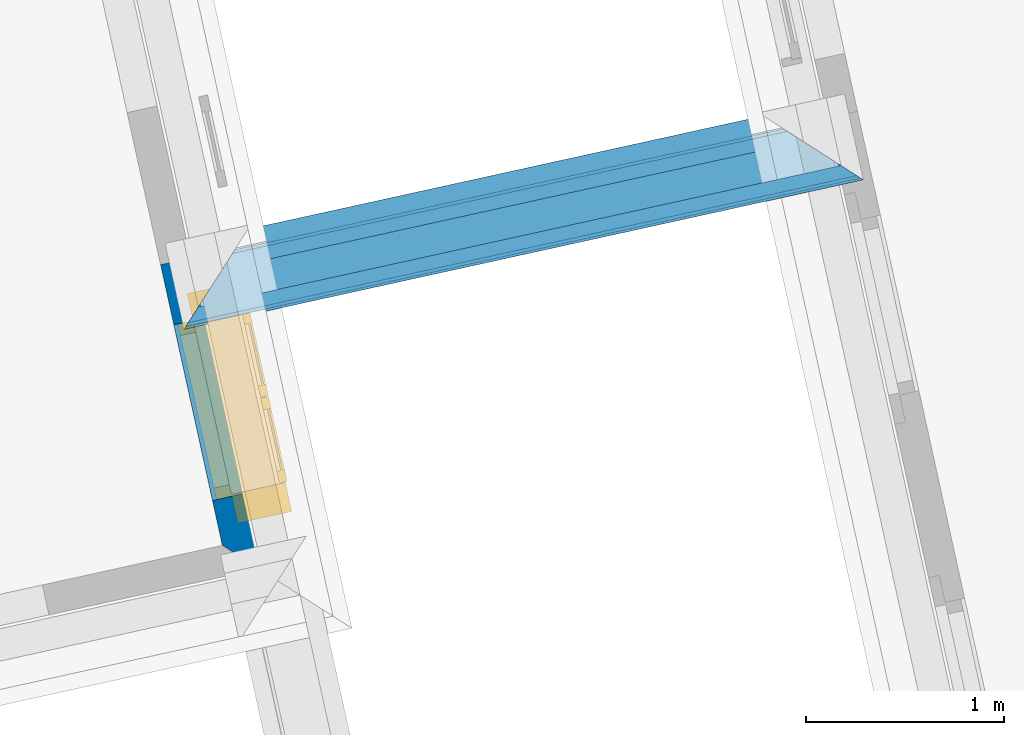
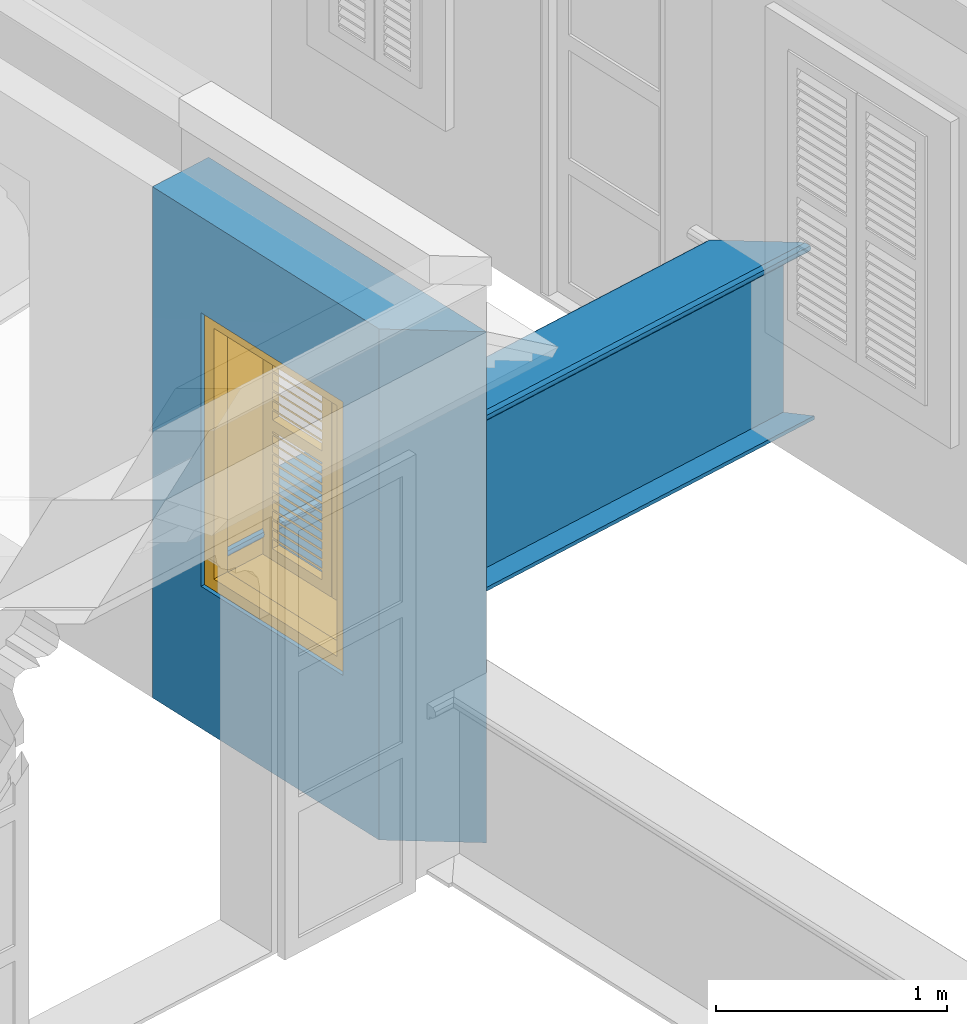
# One storey, part 10 of 17: 4 walls, 1 window, 1 opening.
"""IFC4 building model written with IfcOpenShell, lengths in metres."""

from ifc_helpers import new_model, si_unit, frame, origin, origin_with_axes, place, context, subcontext, project, spatial, polyline, outline, extrude, clip, halfspace, faceted_brep, source, transform, mapped, material, layer, layer_set, layer_usage, material_profile, profile_set, profile_usage, type_object, type_shapes, element, fill, save


model = new_model("IFC4")

# Units and contexts
model_context = context("Model", 3, world=origin_with_axes())
body_context = subcontext(model_context, "Body", "Model", "MODEL_VIEW")
ifc_project = project(units=[si_unit("PLANEANGLEUNIT", "RADIAN"), si_unit("MASSUNIT", "GRAM", prefix="KILO"), si_unit("FORCEUNIT", "NEWTON", prefix="KILO"), si_unit("LENGTHUNIT", "METRE"), si_unit("AREAUNIT", "SQUARE_METRE"), si_unit("VOLUMEUNIT", "CUBIC_METRE")], contexts=[model_context, model_context])

# Site, building, storey
site_placement = place(None, origin_with_axes())
site = spatial("IfcSite", under=ifc_project, at=site_placement, Name="Site plot-2", CompositionType="ELEMENT")
building_placement = place(None, origin_with_axes())
building = spatial("IfcBuilding", under=site, at=building_placement, Name="Building plot-2", CompositionType="ELEMENT")
storey_placement = place(None, frame((0.0, 0.0, 2.85), z_axis=(0.0, 0.0, 1.0), x_axis=(1.0, 0.0, 0.0)))
storey = spatial("IfcBuildingStorey", under=building, at=storey_placement, Name="plot-2 1", CompositionType="ELEMENT", Elevation=2.85)

# Wall, opening, window
ifc_material = material(Name="Masonry")
ifc_layer = layer(ifc_material, 0.33, ventilated=False)
ifc_layer_set = layer_set([ifc_layer], Name="exterior_0.08_0.25")
ifc_layer_usage = layer_usage(ifc_layer_set, "AXIS2", "POSITIVE", -0.25)
wall_type_1 = type_object("IfcWallType", Name="exterior_0.08_0.25", PredefinedType="SOLIDWALL", material=ifc_layer_set)
wall_1_placement = place(storey_placement, frame((12.445878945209, 11.0804082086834, 0.0), z_axis=(0.0, 0.0, 1.0), x_axis=(-0.214808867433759, 0.976656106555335, 0.0)))
wall_1 = element("IfcWall", 1, at=wall_1_placement, inside=storey, type_object=wall_type_1, material=ifc_layer_usage, Name="exterior", context=body_context, shape_type="SweptSolid", body=[
    extrude(outline(polyline([(0.0800000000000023, 0.0799999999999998), (-0.250000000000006, -0.249999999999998), (1.53414934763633, -0.25), (1.53414934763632, 0.0799999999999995), (0.0800000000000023, 0.0799999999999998)])), origin_with_axes(), (0.0, 0.0, 1.0), 2.7),
])
opening_placement = place(wall_1_placement, frame((0.312074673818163, 0.0, 0.75)))
opening = element("IfcOpeningElement", 2, at=opening_placement, cuts=wall_1, Name="My Opening", ObjectType="Opening", context=body_context, shape_type="SweptSolid", body=[
    extrude(outline(polyline([(0.0, -0.270000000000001), (0.909999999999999, -0.27), (0.91, 1.1), (1.66533453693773e-15, 1.1), (0.0, -0.270000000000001)])), origin_with_axes(), (0.0, 0.0, 1.0), 1.445),
])
window_type = type_object("IfcWindowType", Name="shuttered_shorter", PartitioningType="DOUBLE_PANEL_HORIZONTAL", PredefinedType="NOTDEFINED")
shared_shape = source(origin(), body_context, "Body", "Brep", [
    faceted_brep([(0.393, 0.0, 0.622), (0.074, 0.0, 0.622), (0.074, 0.0, 0.632), (0.393, 0.0, 0.632), (0.074, -0.04, 0.592), (0.393, -0.04, 0.592), (0.393, -0.04, 0.582), (0.074, -0.04, 0.582), (0.517, 0.0, 0.682), (0.836, 0.0, 0.682), (0.836, 0.0, 0.672), (0.517, 0.0, 0.672), (0.517, -0.04, 0.642), (0.836, -0.04, 0.642), (0.836, -0.04, 0.632), (0.517, -0.04, 0.632), (0.517, 0.0, 0.632), (0.836, 0.0, 0.632), (0.836, 0.0, 0.622), (0.517, 0.0, 0.622), (0.517, -0.04, 0.592), (0.836, -0.04, 0.592), (0.836, -0.04, 0.582), (0.517, -0.04, 0.582), (0.517, 0.0, 0.232), (0.836, 0.0, 0.232), (0.836, 0.0, 0.222), (0.517, 0.0, 0.222), (0.517, -0.04, 0.192), (0.836, -0.04, 0.192), (0.836, -0.04, 0.182), (0.517, -0.04, 0.182), (0.517, 0.0, 0.532), (0.836, 0.0, 0.532), (0.836, 0.0, 0.522), (0.517, 0.0, 0.522), (0.517, -0.04, 0.492), (0.836, -0.04, 0.492), (0.836, -0.04, 0.482), (0.517, -0.04, 0.482), (0.517, 0.0, 0.482), (0.836, 0.0, 0.482), (0.836, 0.0, 0.472), (0.517, 0.0, 0.472), (0.517, -0.04, 0.442), (0.836, -0.04, 0.442), (0.836, -0.04, 0.432), (0.517, -0.04, 0.432), (0.517, 0.0, 0.582), (0.836, 0.0, 0.582), (0.836, 0.0, 0.572), (0.517, 0.0, 0.572), (0.517, -0.04, 0.542), (0.836, -0.04, 0.542), (0.836, -0.04, 0.532), (0.517, -0.04, 0.532), (0.517, 0.0, 0.182), (0.836, 0.0, 0.182), (0.836, 0.0, 0.172), (0.517, 0.0, 0.172), (0.517, -0.04, 0.142), (0.836, -0.04, 0.142), (0.836, -0.04, 0.132), (0.517, -0.04, 0.132), (0.517, 0.0, 0.382), (0.836, 0.0, 0.382), (0.836, 0.0, 0.372), (0.517, 0.0, 0.372), (0.517, -0.04, 0.342), (0.836, -0.04, 0.342), (0.836, -0.04, 0.332), (0.517, -0.04, 0.332), (0.517, 0.0, 0.432), (0.836, 0.0, 0.432), (0.836, 0.0, 0.422), (0.517, 0.0, 0.422), (0.517, -0.04, 0.392), (0.836, -0.04, 0.392), (0.836, -0.04, 0.382), (0.517, -0.04, 0.382), (0.517, 0.0, 0.132), (0.836, 0.0, 0.132), (0.836, 0.0, 0.122), (0.517, 0.0, 0.122), (0.517, -0.04, 0.092), (0.836, -0.04, 0.092), (0.836, -0.04, 0.082), (0.517, -0.04, 0.082), (0.517, 0.0, 0.282), (0.836, 0.0, 0.282), (0.836, 0.0, 0.272), (0.517, 0.0, 0.272), (0.517, -0.04, 0.242), (0.836, -0.04, 0.242), (0.836, -0.04, 0.232), (0.517, -0.04, 0.232), (0.517, 0.0, 0.332), (0.836, 0.0, 0.332), (0.836, 0.0, 0.322), (0.517, 0.0, 0.322), (0.517, -0.04, 0.292), (0.836, -0.04, 0.292), (0.836, -0.04, 0.282), (0.517, -0.04, 0.282), (0.517, 0.0, 1.362667), (0.836, 0.0, 1.362667), (0.836, 0.0, 1.352667), (0.517, 0.0, 1.352667), (0.517, -0.04, 1.322667), (0.836, -0.04, 1.322667), (0.836, -0.04, 1.312667), (0.517, -0.04, 1.312667), (0.517, 0.0, 1.312667), (0.836, 0.0, 1.312667), (0.836, 0.0, 1.302667), (0.517, 0.0, 1.302667), (0.517, -0.04, 1.272667), (0.836, -0.04, 1.272667), (0.836, -0.04, 1.262667), (0.517, -0.04, 1.262667), (0.517, 0.0, 0.912667), (0.836, 0.0, 0.912667), (0.836, 0.0, 0.902667), (0.517, 0.0, 0.902667), (0.517, -0.04, 0.872667), (0.836, -0.04, 0.872667), (0.836, -0.04, 0.862667), (0.517, -0.04, 0.862667), (0.517, 0.0, 1.212667), (0.836, 0.0, 1.212667), (0.836, 0.0, 1.202667), (0.517, 0.0, 1.202667), (0.517, -0.04, 1.172667), (0.836, -0.04, 1.172667), (0.836, -0.04, 1.162667), (0.517, -0.04, 1.162667), (0.517, 0.0, 1.162667), (0.836, 0.0, 1.162667), (0.836, 0.0, 1.152667), (0.517, 0.0, 1.152667), (0.517, -0.04, 1.122667), (0.836, -0.04, 1.122667), (0.836, -0.04, 1.112667), (0.517, -0.04, 1.112667), (0.517, 0.0, 1.262667), (0.836, 0.0, 1.262667), (0.836, 0.0, 1.252667), (0.517, 0.0, 1.252667), (0.517, -0.04, 1.222667), (0.836, -0.04, 1.222667), (0.836, -0.04, 1.212667), (0.517, -0.04, 1.212667), (0.517, 0.0, 0.862667), (0.836, 0.0, 0.862667), (0.836, 0.0, 0.852667), (0.517, 0.0, 0.852667), (0.517, -0.04, 0.822667), (0.836, -0.04, 0.822667), (0.836, -0.04, 0.812667), (0.517, -0.04, 0.812667), (0.517, 0.0, 1.062667), (0.836, 0.0, 1.062667), (0.836, 0.0, 1.052667), (0.517, 0.0, 1.052667), (0.517, -0.04, 1.022667), (0.836, -0.04, 1.022667), (0.836, -0.04, 1.012667), (0.517, -0.04, 1.012667), (0.517, 0.0, 1.112667), (0.836, 0.0, 1.112667), (0.836, 0.0, 1.102667), (0.517, 0.0, 1.102667), (0.517, -0.04, 1.072667), (0.836, -0.04, 1.072667), (0.836, -0.04, 1.062667), (0.517, -0.04, 1.062667), (0.517, 0.0, 0.812667), (0.836, 0.0, 0.812667), (0.836, 0.0, 0.802667), (0.517, 0.0, 0.802667), (0.517, -0.04, 0.772667), (0.836, -0.04, 0.772667), (0.836, -0.04, 0.762667), (0.517, -0.04, 0.762667), (0.517, 0.0, 0.962667), (0.836, 0.0, 0.962667), (0.836, 0.0, 0.952667), (0.517, 0.0, 0.952667), (0.517, -0.04, 0.922667), (0.836, -0.04, 0.922667), (0.836, -0.04, 0.912667), (0.517, -0.04, 0.912667), (0.517, 0.0, 1.012667), (0.836, 0.0, 1.012667), (0.836, 0.0, 1.002667), (0.517, 0.0, 1.002667), (0.517, -0.04, 0.972667), (0.836, -0.04, 0.972667), (0.836, -0.04, 0.962667), (0.517, -0.04, 0.962667), (0.074, 0.0, 0.682), (0.393, 0.0, 0.682), (0.393, 0.0, 0.672), (0.074, 0.0, 0.672), (0.074, -0.04, 0.642), (0.393, -0.04, 0.642), (0.393, -0.04, 0.632), (0.074, -0.04, 0.632), (0.074, 0.0, 0.232), (0.393, 0.0, 0.232), (0.393, 0.0, 0.222), (0.074, 0.0, 0.222), (0.074, -0.04, 0.192), (0.393, -0.04, 0.192), (0.393, -0.04, 0.182), (0.074, -0.04, 0.182), (0.074, 0.0, 0.532), (0.393, 0.0, 0.532), (0.393, 0.0, 0.522), (0.074, 0.0, 0.522), (0.074, -0.04, 0.492), (0.393, -0.04, 0.492), (0.393, -0.04, 0.482), (0.074, -0.04, 0.482), (0.074, 0.0, 0.482), (0.393, 0.0, 0.482), (0.393, 0.0, 0.472), (0.074, 0.0, 0.472), (0.074, -0.04, 0.442), (0.393, -0.04, 0.442), (0.393, -0.04, 0.432), (0.074, -0.04, 0.432), (0.074, 0.0, 0.582), (0.393, 0.0, 0.582), (0.393, 0.0, 0.572), (0.074, 0.0, 0.572), (0.074, -0.04, 0.542), (0.393, -0.04, 0.542), (0.393, -0.04, 0.532), (0.074, -0.04, 0.532), (0.074, 0.0, 0.182), (0.393, 0.0, 0.182), (0.393, 0.0, 0.172), (0.074, 0.0, 0.172), (0.074, -0.04, 0.142), (0.393, -0.04, 0.142), (0.393, -0.04, 0.132), (0.074, -0.04, 0.132), (0.074, 0.0, 0.382), (0.393, 0.0, 0.382), (0.393, 0.0, 0.372), (0.074, 0.0, 0.372), (0.074, -0.04, 0.342), (0.393, -0.04, 0.342), (0.393, -0.04, 0.332), (0.074, -0.04, 0.332), (0.074, 0.0, 0.432), (0.393, 0.0, 0.432), (0.393, 0.0, 0.422), (0.074, 0.0, 0.422), (0.074, -0.04, 0.392), (0.393, -0.04, 0.392), (0.393, -0.04, 0.382), (0.074, -0.04, 0.382), (0.074, 0.0, 0.132), (0.393, 0.0, 0.132), (0.393, 0.0, 0.122), (0.074, 0.0, 0.122), (0.074, -0.04, 0.092), (0.393, -0.04, 0.092), (0.393, -0.04, 0.082), (0.074, -0.04, 0.082), (0.074, 0.0, 0.282), (0.393, 0.0, 0.282), (0.393, 0.0, 0.272), (0.074, 0.0, 0.272), (0.074, -0.04, 0.242), (0.393, -0.04, 0.242), (0.393, -0.04, 0.232), (0.074, -0.04, 0.232), (0.074, 0.0, 0.332), (0.393, 0.0, 0.332), (0.393, 0.0, 0.322), (0.074, 0.0, 0.322), (0.074, -0.04, 0.292), (0.393, -0.04, 0.292), (0.393, -0.04, 0.282), (0.074, -0.04, 0.282), (0.074, 0.0, 1.362667), (0.393, 0.0, 1.362667), (0.393, 0.0, 1.352667), (0.074, 0.0, 1.352667), (0.074, -0.04, 1.322667), (0.393, -0.04, 1.322667), (0.393, -0.04, 1.312667), (0.074, -0.04, 1.312667), (0.074, 0.0, 1.312667), (0.393, 0.0, 1.312667), (0.393, 0.0, 1.302667), (0.074, 0.0, 1.302667), (0.074, -0.04, 1.272667), (0.393, -0.04, 1.272667), (0.393, -0.04, 1.262667), (0.074, -0.04, 1.262667), (0.074, 0.0, 0.912667), (0.393, 0.0, 0.912667), (0.393, 0.0, 0.902667), (0.074, 0.0, 0.902667), (0.074, -0.04, 0.872667), (0.393, -0.04, 0.872667), (0.393, -0.04, 0.862667), (0.074, -0.04, 0.862667), (0.074, 0.0, 1.212667), (0.393, 0.0, 1.212667), (0.393, 0.0, 1.202667), (0.074, 0.0, 1.202667), (0.074, -0.04, 1.172667), (0.393, -0.04, 1.172667), (0.393, -0.04, 1.162667), (0.074, -0.04, 1.162667), (0.074, 0.0, 1.162667), (0.393, 0.0, 1.162667), (0.393, 0.0, 1.152667), (0.074, 0.0, 1.152667), (0.074, -0.04, 1.122667), (0.393, -0.04, 1.122667), (0.393, -0.04, 1.112667), (0.074, -0.04, 1.112667), (0.074, 0.0, 1.262667), (0.393, 0.0, 1.262667), (0.393, 0.0, 1.252667), (0.074, 0.0, 1.252667), (0.074, -0.04, 1.222667), (0.393, -0.04, 1.222667), (0.393, -0.04, 1.212667), (0.074, -0.04, 1.212667), (0.074, 0.0, 0.862667), (0.393, 0.0, 0.862667), (0.393, 0.0, 0.852667), (0.074, 0.0, 0.852667), (0.074, -0.04, 0.822667), (0.393, -0.04, 0.822667), (0.393, -0.04, 0.812667), (0.074, -0.04, 0.812667), (0.074, 0.0, 1.062667), (0.393, 0.0, 1.062667), (0.393, 0.0, 1.052667), (0.074, 0.0, 1.052667), (0.074, -0.04, 1.022667), (0.393, -0.04, 1.022667), (0.393, -0.04, 1.012667), (0.074, -0.04, 1.012667), (0.074, 0.0, 1.112667), (0.393, 0.0, 1.112667), (0.393, 0.0, 1.102667), (0.074, 0.0, 1.102667), (0.074, -0.04, 1.072667), (0.393, -0.04, 1.072667), (0.393, -0.04, 1.062667), (0.074, -0.04, 1.062667), (0.074, 0.0, 0.812667), (0.393, 0.0, 0.812667), (0.393, 0.0, 0.802667), (0.074, 0.0, 0.802667), (0.074, -0.04, 0.772667), (0.393, -0.04, 0.772667), (0.393, -0.04, 0.762667), (0.074, -0.04, 0.762667), (0.074, 0.0, 0.962667), (0.393, 0.0, 0.962667), (0.393, 0.0, 0.952667), (0.074, 0.0, 0.952667), (0.074, -0.04, 0.922667), (0.393, -0.04, 0.922667), (0.393, -0.04, 0.912667), (0.074, -0.04, 0.912667), (0.074, 0.0, 1.012667), (0.393, 0.0, 1.012667), (0.393, 0.0, 1.002667), (0.074, 0.0, 1.002667), (0.074, -0.04, 0.972667), (0.393, -0.04, 0.972667), (0.393, -0.04, 0.962667), (0.074, -0.04, 0.962667), (0.517, -0.04, 0.072), (0.457, -0.04, 0.012), (0.896, -0.04, 0.012), (0.836, -0.04, 0.072), (0.457, -0.04, 0.692667), (0.517, -0.04, 0.692667), (0.457, 0.0, 0.012), (0.896, 0.0, 0.012), (0.836, -0.04, 0.692667), (0.896, -0.04, 0.692667), (0.836, 0.0, 0.072), (0.517, 0.0, 0.072), (0.457, 0.0, 0.692667), (0.517, 0.0, 0.692667), (0.517, -0.04, 0.752666), (0.457, -0.04, 0.752666), (0.896, 0.0, 0.692667), (0.836, 0.0, 0.692667), (0.836, -0.04, 0.752666), (0.896, -0.04, 0.752666), (0.457, 0.0, 0.752666), (0.457, -0.04, 1.433333), (0.517, -0.04, 1.373333), (0.896, 0.0, 0.752666), (0.836, -0.04, 1.373333), (0.896, -0.04, 1.433333), (0.457, 0.0, 1.433333), (0.517, 0.0, 0.752666), (0.836, 0.0, 0.752666), (0.517, 0.0, 1.373333), (0.896, 0.0, 1.433333), (0.836, 0.0, 1.373333), (0.074, -0.04, 0.072), (0.014, -0.04, 0.012), (0.453, -0.04, 0.012), (0.393, -0.04, 0.072), (0.014, -0.04, 0.692667), (0.074, -0.04, 0.692667), (0.014, 0.0, 0.012), (0.453, 0.0, 0.012), (0.393, -0.04, 0.692667), (0.453, -0.04, 0.692667), (0.393, 0.0, 0.072), (0.074, 0.0, 0.072), (0.014, 0.0, 0.692667), (0.074, 0.0, 0.692667), (0.074, -0.04, 0.752666), (0.014, -0.04, 0.752666), (0.453, 0.0, 0.692667), (0.393, 0.0, 0.692667), (0.393, -0.04, 0.752666), (0.453, -0.04, 0.752666), (0.014, 0.0, 0.752666), (0.014, -0.04, 1.433333), (0.074, -0.04, 1.373333), (0.453, 0.0, 0.752666), (0.393, -0.04, 1.373333), (0.453, -0.04, 1.433333), (0.014, 0.0, 1.433333), (0.074, 0.0, 0.752666), (0.393, 0.0, 0.752666), (0.074, 0.0, 1.373333), (0.453, 0.0, 1.433333), (0.393, 0.0, 1.373333), (0.0, 0.33, 1.445), (0.91, 0.33, 1.445), (0.85, 0.33, 1.385), (0.06, 0.33, 1.385), (0.91, 0.25, 1.445), (0.0, 0.25, 1.445), (0.91, 0.25, 1.445), (0.85, 0.33, 0.06), (0.91, 0.33, 0.0), (0.85, 0.25, 1.385), (0.06, 0.25, 1.385), (0.0, 0.33, 0.0), (0.06, 0.33, 0.06), (0.0, 0.25, 0.0), (0.91, 0.25, 0.0), (0.85, 0.25, 0.06), (0.06, 0.25, 0.06), (1.05, 0.25, 1.585), (-0.14, 0.25, 1.585), (-0.14, -0.03, 1.585), (1.05, -0.03, 1.585), (0.9, -0.03, 1.435), (0.01, -0.03, 1.435), (0.01, 0.25, 1.435), (0.9, 0.25, 1.435), (0.9, 0.25, 0.01), (0.9, -0.03, 0.01), (1.05, -0.03, -0.14), (1.05, 0.25, -0.14), (0.01, -0.03, 0.01), (0.01, 0.25, 0.01), (-0.14, -0.03, -0.14), (-0.14, 0.25, -0.14)], [[[0, 1, 2, 3]], [[4, 5, 3, 2]], [[5, 6, 0, 3]], [[1, 0, 6, 7]], [[2, 1, 7, 4]], [[5, 4, 7, 6]], [[8, 9, 10, 11]], [[12, 13, 9, 8]], [[13, 14, 10, 9]], [[14, 15, 11, 10]], [[15, 12, 8, 11]], [[13, 12, 15, 14]], [[16, 17, 18, 19]], [[20, 21, 17, 16]], [[21, 22, 18, 17]], [[22, 23, 19, 18]], [[23, 20, 16, 19]], [[21, 20, 23, 22]], [[24, 25, 26, 27]], [[28, 29, 25, 24]], [[29, 30, 26, 25]], [[30, 31, 27, 26]], [[31, 28, 24, 27]], [[29, 28, 31, 30]], [[32, 33, 34, 35]], [[36, 37, 33, 32]], [[37, 38, 34, 33]], [[38, 39, 35, 34]], [[39, 36, 32, 35]], [[37, 36, 39, 38]], [[40, 41, 42, 43]], [[44, 45, 41, 40]], [[45, 46, 42, 41]], [[46, 47, 43, 42]], [[47, 44, 40, 43]], [[45, 44, 47, 46]], [[48, 49, 50, 51]], [[52, 53, 49, 48]], [[53, 54, 50, 49]], [[54, 55, 51, 50]], [[55, 52, 48, 51]], [[53, 52, 55, 54]], [[56, 57, 58, 59]], [[60, 61, 57, 56]], [[61, 62, 58, 57]], [[62, 63, 59, 58]], [[63, 60, 56, 59]], [[61, 60, 63, 62]], [[64, 65, 66, 67]], [[68, 69, 65, 64]], [[69, 70, 66, 65]], [[70, 71, 67, 66]], [[71, 68, 64, 67]], [[69, 68, 71, 70]], [[72, 73, 74, 75]], [[76, 77, 73, 72]], [[77, 78, 74, 73]], [[78, 79, 75, 74]], [[79, 76, 72, 75]], [[77, 76, 79, 78]], [[80, 81, 82, 83]], [[84, 85, 81, 80]], [[85, 86, 82, 81]], [[86, 87, 83, 82]], [[87, 84, 80, 83]], [[85, 84, 87, 86]], [[88, 89, 90, 91]], [[92, 93, 89, 88]], [[93, 94, 90, 89]], [[94, 95, 91, 90]], [[95, 92, 88, 91]], [[93, 92, 95, 94]], [[96, 97, 98, 99]], [[100, 101, 97, 96]], [[101, 102, 98, 97]], [[102, 103, 99, 98]], [[103, 100, 96, 99]], [[101, 100, 103, 102]], [[104, 105, 106, 107]], [[108, 109, 105, 104]], [[109, 110, 106, 105]], [[110, 111, 107, 106]], [[111, 108, 104, 107]], [[109, 108, 111, 110]], [[112, 113, 114, 115]], [[116, 117, 113, 112]], [[117, 118, 114, 113]], [[118, 119, 115, 114]], [[119, 116, 112, 115]], [[117, 116, 119, 118]], [[120, 121, 122, 123]], [[124, 125, 121, 120]], [[125, 126, 122, 121]], [[126, 127, 123, 122]], [[127, 124, 120, 123]], [[125, 124, 127, 126]], [[128, 129, 130, 131]], [[132, 133, 129, 128]], [[133, 134, 130, 129]], [[134, 135, 131, 130]], [[135, 132, 128, 131]], [[133, 132, 135, 134]], [[136, 137, 138, 139]], [[140, 141, 137, 136]], [[141, 142, 138, 137]], [[142, 143, 139, 138]], [[139, 143, 140, 136]], [[141, 140, 143, 142]], [[144, 145, 146, 147]], [[148, 149, 145, 144]], [[149, 150, 146, 145]], [[150, 151, 147, 146]], [[151, 148, 144, 147]], [[149, 148, 151, 150]], [[152, 153, 154, 155]], [[156, 157, 153, 152]], [[157, 158, 154, 153]], [[158, 159, 155, 154]], [[159, 156, 152, 155]], [[157, 156, 159, 158]], [[160, 161, 162, 163]], [[164, 165, 161, 160]], [[165, 166, 162, 161]], [[166, 167, 163, 162]], [[167, 164, 160, 163]], [[165, 164, 167, 166]], [[168, 169, 170, 171]], [[172, 173, 169, 168]], [[173, 174, 170, 169]], [[174, 175, 171, 170]], [[175, 172, 168, 171]], [[173, 172, 175, 174]], [[176, 177, 178, 179]], [[180, 181, 177, 176]], [[181, 182, 178, 177]], [[182, 183, 179, 178]], [[183, 180, 176, 179]], [[181, 180, 183, 182]], [[184, 185, 186, 187]], [[188, 189, 185, 184]], [[189, 190, 186, 185]], [[190, 191, 187, 186]], [[191, 188, 184, 187]], [[189, 188, 191, 190]], [[192, 193, 194, 195]], [[196, 197, 193, 192]], [[197, 198, 194, 193]], [[198, 199, 195, 194]], [[199, 196, 192, 195]], [[197, 196, 199, 198]], [[200, 201, 202, 203]], [[204, 205, 201, 200]], [[205, 206, 202, 201]], [[206, 207, 203, 202]], [[207, 204, 200, 203]], [[205, 204, 207, 206]], [[208, 209, 210, 211]], [[212, 213, 209, 208]], [[213, 214, 210, 209]], [[214, 215, 211, 210]], [[215, 212, 208, 211]], [[213, 212, 215, 214]], [[216, 217, 218, 219]], [[220, 221, 217, 216]], [[221, 222, 218, 217]], [[222, 223, 219, 218]], [[223, 220, 216, 219]], [[221, 220, 223, 222]], [[224, 225, 226, 227]], [[228, 229, 225, 224]], [[229, 230, 226, 225]], [[230, 231, 227, 226]], [[231, 228, 224, 227]], [[229, 228, 231, 230]], [[232, 233, 234, 235]], [[236, 237, 233, 232]], [[237, 238, 234, 233]], [[238, 239, 235, 234]], [[239, 236, 232, 235]], [[237, 236, 239, 238]], [[240, 241, 242, 243]], [[244, 245, 241, 240]], [[245, 246, 242, 241]], [[246, 247, 243, 242]], [[247, 244, 240, 243]], [[245, 244, 247, 246]], [[248, 249, 250, 251]], [[252, 253, 249, 248]], [[253, 254, 250, 249]], [[254, 255, 251, 250]], [[255, 252, 248, 251]], [[253, 252, 255, 254]], [[256, 257, 258, 259]], [[260, 261, 257, 256]], [[261, 262, 258, 257]], [[262, 263, 259, 258]], [[263, 260, 256, 259]], [[261, 260, 263, 262]], [[264, 265, 266, 267]], [[268, 269, 265, 264]], [[269, 270, 266, 265]], [[270, 271, 267, 266]], [[271, 268, 264, 267]], [[269, 268, 271, 270]], [[272, 273, 274, 275]], [[276, 277, 273, 272]], [[277, 278, 274, 273]], [[278, 279, 275, 274]], [[279, 276, 272, 275]], [[277, 276, 279, 278]], [[280, 281, 282, 283]], [[284, 285, 281, 280]], [[285, 286, 282, 281]], [[286, 287, 283, 282]], [[287, 284, 280, 283]], [[285, 284, 287, 286]], [[288, 289, 290, 291]], [[292, 293, 289, 288]], [[293, 294, 290, 289]], [[294, 295, 291, 290]], [[295, 292, 288, 291]], [[293, 292, 295, 294]], [[296, 297, 298, 299]], [[300, 301, 297, 296]], [[301, 302, 298, 297]], [[302, 303, 299, 298]], [[303, 300, 296, 299]], [[301, 300, 303, 302]], [[304, 305, 306, 307]], [[308, 309, 305, 304]], [[309, 310, 306, 305]], [[310, 311, 307, 306]], [[311, 308, 304, 307]], [[309, 308, 311, 310]], [[312, 313, 314, 315]], [[316, 317, 313, 312]], [[317, 318, 314, 313]], [[318, 319, 315, 314]], [[319, 316, 312, 315]], [[317, 316, 319, 318]], [[320, 321, 322, 323]], [[324, 325, 321, 320]], [[325, 326, 322, 321]], [[326, 327, 323, 322]], [[327, 324, 320, 323]], [[325, 324, 327, 326]], [[328, 329, 330, 331]], [[332, 333, 329, 328]], [[333, 334, 330, 329]], [[334, 335, 331, 330]], [[335, 332, 328, 331]], [[333, 332, 335, 334]], [[336, 337, 338, 339]], [[340, 341, 337, 336]], [[341, 342, 338, 337]], [[342, 343, 339, 338]], [[343, 340, 336, 339]], [[341, 340, 343, 342]], [[344, 345, 346, 347]], [[348, 349, 345, 344]], [[349, 350, 346, 345]], [[350, 351, 347, 346]], [[351, 348, 344, 347]], [[349, 348, 351, 350]], [[352, 353, 354, 355]], [[356, 357, 353, 352]], [[357, 358, 354, 353]], [[358, 359, 355, 354]], [[359, 356, 352, 355]], [[357, 356, 359, 358]], [[360, 361, 362, 363]], [[364, 365, 361, 360]], [[365, 366, 362, 361]], [[366, 367, 363, 362]], [[367, 364, 360, 363]], [[365, 364, 367, 366]], [[368, 369, 370, 371]], [[372, 373, 369, 368]], [[373, 374, 370, 369]], [[374, 375, 371, 370]], [[375, 372, 368, 371]], [[373, 372, 375, 374]], [[376, 377, 378, 379]], [[380, 381, 377, 376]], [[381, 382, 378, 377]], [[382, 383, 379, 378]], [[383, 380, 376, 379]], [[381, 380, 383, 382]], [[384, 385, 386, 387]], [[388, 385, 384, 389]], [[390, 391, 386, 385]], [[392, 387, 386, 393]], [[384, 387, 394, 395]], [[390, 385, 388, 396]], [[389, 384, 395, 397]], [[389, 398, 399, 388]], [[390, 395, 394, 391]], [[400, 393, 386, 391]], [[387, 392, 401, 394]], [[402, 392, 393, 403]], [[396, 388, 399, 404]], [[390, 396, 397, 395]], [[392, 389, 397, 401]], [[398, 389, 392, 402]], [[405, 399, 398, 406]], [[394, 401, 400, 391]], [[407, 403, 393, 400]], [[408, 402, 403, 409]], [[404, 399, 405, 410]], [[411, 397, 396, 404]], [[397, 411, 412, 401]], [[398, 402, 412, 411]], [[406, 398, 411, 413]], [[405, 406, 408, 409]], [[401, 412, 407, 400]], [[414, 409, 403, 407]], [[402, 408, 415, 412]], [[405, 409, 414, 410]], [[404, 410, 413, 411]], [[408, 406, 413, 415]], [[412, 415, 414, 407]], [[413, 410, 414, 415]], [[416, 417, 418, 419]], [[420, 417, 416, 421]], [[422, 423, 418, 417]], [[424, 419, 418, 425]], [[416, 419, 426, 427]], [[422, 417, 420, 428]], [[421, 416, 427, 429]], [[421, 430, 431, 420]], [[422, 427, 426, 423]], [[432, 425, 418, 423]], [[419, 424, 433, 426]], [[434, 424, 425, 435]], [[428, 420, 431, 436]], [[422, 428, 429, 427]], [[424, 421, 429, 433]], [[430, 421, 424, 434]], [[437, 431, 430, 438]], [[426, 433, 432, 423]], [[439, 435, 425, 432]], [[440, 434, 435, 441]], [[436, 431, 437, 442]], [[443, 429, 428, 436]], [[429, 443, 444, 433]], [[430, 434, 444, 443]], [[438, 430, 443, 445]], [[437, 438, 440, 441]], [[433, 444, 439, 432]], [[446, 441, 435, 439]], [[434, 440, 447, 444]], [[437, 441, 446, 442]], [[436, 442, 445, 443]], [[440, 438, 445, 447]], [[444, 447, 446, 439]], [[445, 442, 446, 447]], [[448, 449, 450, 451]], [[452, 449, 448]], [[448, 453, 454]], [[448, 454, 452]], [[455, 450, 449, 456]], [[451, 450, 457, 458]], [[459, 448, 451, 460]], [[448, 459, 461, 453]], [[454, 453, 458, 457]], [[462, 452, 454]], [[454, 457, 463]], [[454, 463, 462]], [[456, 449, 452, 462]], [[450, 455, 463, 457]], [[456, 459, 460, 455]], [[460, 451, 458, 464]], [[459, 456, 462, 461]], [[464, 458, 453, 461]], [[461, 462, 463, 464]], [[455, 460, 464, 463]], [[465, 466, 467, 468]], [[469, 470, 471, 472]], [[473, 474, 469, 472]], [[465, 468, 475, 476]], [[470, 477, 478, 471]], [[474, 473, 478, 477]], [[474, 477, 479, 475]], [[470, 467, 479, 477]], [[470, 469, 468, 467]], [[474, 475, 468, 469]], [[471, 478, 480, 466]], [[473, 472, 465, 476]], [[473, 476, 480, 478]], [[466, 465, 472, 471]], [[480, 476, 475, 479]], [[480, 479, 467, 466]]]),
])
type_shapes(window_type, [shared_shape])
window_placement = place(storey_placement, frame((12.6425396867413, 11.4431962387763, 0.75), z_axis=(0.0, 0.0, 1.0), x_axis=(-0.195476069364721, 0.888757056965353, 0.0)))
window = element("IfcWindow", 3, at=window_placement, inside=storey, type_object=window_type, Name="circulation sahn window", OverallHeight=1.445, OverallWidth=0.91, context=body_context, shape_type="MappedRepresentation", body=[
    mapped(shared_shape, transform((0.0, 0.0, 0.0), scale=1.0)),
])
fill(opening, window)

# Walls
ifc_material_profile_1 = material_profile(None, outline(polyline([(0.25, 0.0), (0.25, 0.795), (0.09, 0.795), (0.09, 0.02), (-0.08, 0.02), (-0.08, 0.0), (0.25, 0.0)])))
ifc_profile_set_1 = profile_set([ifc_material_profile_1])
ifc_profile_usage_1 = profile_usage(ifc_profile_set_1)
wall_type_2 = type_object("IfcWallType", Name="parapet internal_0", PredefinedType="PARAPET", material=ifc_profile_set_1)
wall_2_placement = place(storey_placement, frame((16.1586327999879, 13.4678215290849, 0.0), z_axis=(-0.976656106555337, -0.21480886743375, 0.0), x_axis=(0.21480886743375, -0.976656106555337, 0.0)))
element("IfcWall", 4, at=wall_2_placement, inside=storey, type_object=wall_type_2, material=ifc_profile_usage_1, Name="parapet internal_0", context=body_context, shape_type="Clipping", body=[
    clip(clip(extrude(outline(polyline([(0.25, 0.0), (0.25, 0.795), (0.09, 0.795), (0.09, 0.02), (-0.08, 0.02), (-0.08, 0.0), (0.25, 0.0)])), origin_with_axes(), (0.0, 0.0, 1.0), 4.82892127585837), halfspace(frame((0.0, 0.0, 3.82892127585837), z_axis=(0.707106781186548, 0.0, -0.707106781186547), x_axis=(0.0, 1.0, 0.0)), True)), halfspace(frame((0.0, 0.0, 1.0), z_axis=(-0.707106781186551, 0.0, -0.707106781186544), x_axis=(0.0, 1.0, 0.0)), False)),
])
ifc_material_profile_2 = material_profile(None, outline(polyline([(0.265, 0.795), (0.268, 0.807), (0.274, 0.816), (0.283, 0.822), (0.295, 0.825), (0.295, 0.84), (0.305, 0.84), (0.317, 0.842), (0.326, 0.849), (0.333, 0.858), (0.335, 0.87), (0.333, 0.882), (0.326, 0.891), (0.317, 0.898), (0.305, 0.9), (0.035, 0.9), (0.023, 0.898), (0.014, 0.891), (0.007, 0.882), (0.005, 0.87), (0.007, 0.858), (0.014, 0.849), (0.023, 0.842), (0.035, 0.84), (0.045, 0.84), (0.045, 0.825), (0.057, 0.822), (0.066, 0.816), (0.072, 0.807), (0.075, 0.795), (0.265, 0.795)])))
ifc_profile_set_2 = profile_set([ifc_material_profile_2])
ifc_profile_usage_2 = profile_usage(ifc_profile_set_2)
wall_type_3 = type_object("IfcWallType", Name="parapet internal_1", PredefinedType="PARAPET", material=ifc_profile_set_2)
wall_3_placement = place(storey_placement, frame((16.1586327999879, 13.4678215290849, 0.0), z_axis=(-0.976656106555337, -0.21480886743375, 0.0), x_axis=(0.21480886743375, -0.976656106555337, 0.0)))
element("IfcWall", 5, at=wall_3_placement, inside=storey, type_object=wall_type_3, material=ifc_profile_usage_2, Name="parapet internal_1", context=body_context, shape_type="Clipping", body=[
    clip(clip(extrude(outline(polyline([(0.265, 0.795), (0.268, 0.807), (0.274, 0.816), (0.283, 0.822), (0.295, 0.825), (0.295, 0.84), (0.305, 0.84), (0.317, 0.842), (0.326, 0.849), (0.333, 0.858), (0.335, 0.87), (0.333, 0.882), (0.326, 0.891), (0.317, 0.898), (0.305, 0.9), (0.035, 0.9), (0.023, 0.898), (0.014, 0.891), (0.007, 0.882), (0.005, 0.87), (0.007, 0.858), (0.014, 0.849), (0.023, 0.842), (0.035, 0.84), (0.045, 0.84), (0.045, 0.825), (0.057, 0.822), (0.066, 0.816), (0.072, 0.807), (0.075, 0.795), (0.265, 0.795)])), origin_with_axes(), (0.0, 0.0, 1.0), 4.82892127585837), halfspace(frame((0.0, 0.0, 3.82892127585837), z_axis=(0.707106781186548, 0.0, -0.707106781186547), x_axis=(0.0, 1.0, 0.0)), True)), halfspace(frame((0.0, 0.0, 1.0), z_axis=(-0.707106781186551, 0.0, -0.707106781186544), x_axis=(0.0, 1.0, 0.0)), False)),
])
ifc_material_profile_3 = material_profile(None, outline(polyline([(0.25, -0.1), (0.265, -0.1), (0.265, -0.085), (0.278, -0.084), (0.289, -0.081), (0.301, -0.074), (0.309, -0.065), (0.315, -0.055), (0.324, -0.044), (0.334, -0.038), (0.345, -0.035), (0.345, -0.015), (0.25, 0.0), (0.25, -0.1)])))
ifc_profile_set_3 = profile_set([ifc_material_profile_3])
ifc_profile_usage_3 = profile_usage(ifc_profile_set_3)
wall_type_4 = type_object("IfcWallType", Name="parapet internal_2", PredefinedType="PARAPET", material=ifc_profile_set_3)
wall_4_placement = place(storey_placement, frame((16.1586327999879, 13.4678215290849, 0.0), z_axis=(-0.976656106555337, -0.21480886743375, 0.0), x_axis=(0.21480886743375, -0.976656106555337, 0.0)))
element("IfcWall", 6, at=wall_4_placement, inside=storey, type_object=wall_type_4, material=ifc_profile_usage_3, Name="parapet internal_2", context=body_context, shape_type="Clipping", body=[
    clip(clip(extrude(outline(polyline([(0.25, -0.1), (0.265, -0.1), (0.265, -0.085), (0.278, -0.084), (0.289, -0.081), (0.301, -0.074), (0.309, -0.065), (0.315, -0.055), (0.324, -0.044), (0.334, -0.038), (0.345, -0.035), (0.345, -0.015), (0.25, 0.0), (0.25, -0.1)])), origin_with_axes(), (0.0, 0.0, 1.0), 4.82892127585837), halfspace(frame((0.0, 0.0, 3.82892127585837), z_axis=(0.707106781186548, 0.0, -0.707106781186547), x_axis=(0.0, 1.0, 0.0)), True)), halfspace(frame((0.0, 0.0, 1.0), z_axis=(-0.707106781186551, 0.0, -0.707106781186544), x_axis=(0.0, 1.0, 0.0)), False)),
])

save(model, "model.ifc")
